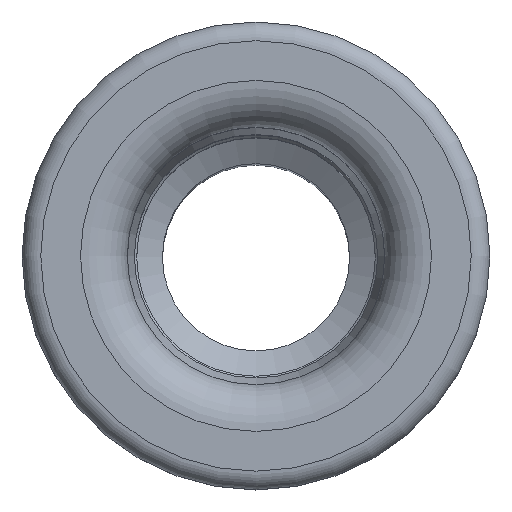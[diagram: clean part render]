
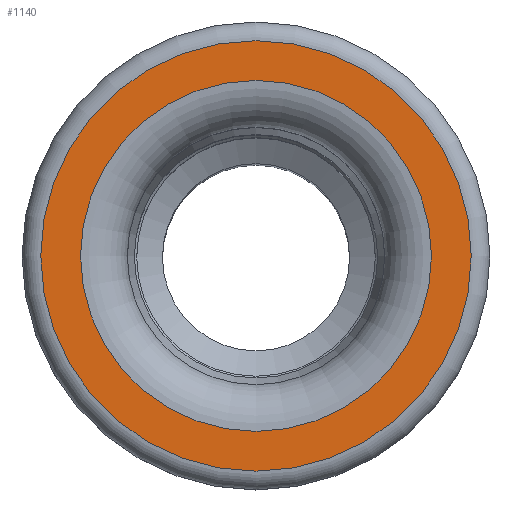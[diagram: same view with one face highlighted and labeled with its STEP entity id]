
A CAD part, top view. The second image highlights one B-rep face of the part: STEP entity #1140.
In plain terms, the highlighted planar face has unit normal (0, 0, 1).
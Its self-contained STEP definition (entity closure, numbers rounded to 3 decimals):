
#1140=ADVANCED_FACE('', (#1150,#1160), #1170, .T.);
#3630=AXIS2_PLACEMENT_3D('Ax2Pl3d', #3640, #3650, #3660);
#3670=AXIS2_PLACEMENT_3D('Ax2Pl3d', #3680, #3690, #3700);
#3710=AXIS2_PLACEMENT_3D('Ax2Pl3d', #3720, #3730, #3740);
#3640=CARTESIAN_POINT('HicPkt', (19.678,26.728,
45.867));
#4520=CARTESIAN_POINT('', (24.278,26.728,45.867));
#3680=CARTESIAN_POINT('HicPkt', (24.278,26.728,
45.867));
#3720=CARTESIAN_POINT('HicPkt', (19.678,26.728,
45.867));
#4530=CARTESIAN_POINT('', (23.428,26.728,45.867));
#4850=CIRCLE('Circle', #3630, 4.6);
#4860=CIRCLE('Circle', #3710, 3.75);
#3650=DIRECTION('Axis', (0.,0.,1.));
#3660=DIRECTION('RefDirection', (1.,0.,-0.));
#3690=DIRECTION('Axis', (0.,0.,1.));
#3700=DIRECTION('RefDirection', (1.,0.,-0.));
#3730=DIRECTION('Axis', (0.,0.,1.));
#3740=DIRECTION('RefDirection', (1.,0.,-0.));
#6530=EDGE_CURVE('', #6540, #6540, #4850, .T.);
#6550=EDGE_CURVE('', #6560, #6560, #4860, .T.);
#7710=EDGE_LOOP('Edge_loop', (#7720));
#7730=EDGE_LOOP('Edge_loop', (#7740));
#1160=FACE_BOUND('', #7730, .T.);
#1150=FACE_OUTER_BOUND('Face_outer_bound', #7710, .T.);
#7720=ORIENTED_EDGE('', *, *, #6530, .T.);
#7740=ORIENTED_EDGE('', *, *, #6550, .F.);
#1170=PLANE('Plane', #3670);
#6540=VERTEX_POINT('', #4520);
#6560=VERTEX_POINT('', #4530);
